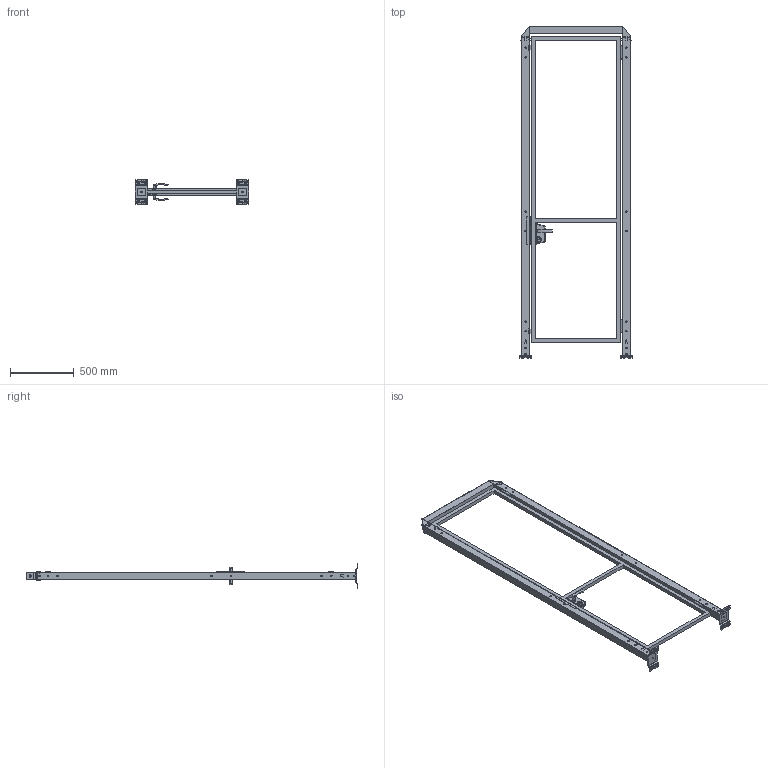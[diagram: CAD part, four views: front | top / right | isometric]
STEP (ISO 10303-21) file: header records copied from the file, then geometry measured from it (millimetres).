
FILE_DESCRIPTION(('STEP AP242'),'1');
FILE_NAME('vfda_bscgd03_07002520.stp','2025-01-31T11:30:36',('TraceParts'),('TraceParts S.A.'),'Spatial InterOp 3D',' ',' ');
FILE_SCHEMA(('AP242_MANAGED_MODEL_BASED_3D_ENGINEERING_MIM_LF {1 0 10303 442 1 1 4}'));
Length unit declared in the file: millimetre
Products named in the file (1): vfda_bscgd03_07002520_1
Bounding box: 890 x 2601 x 192 mm (x, y, z)
Volume: 8905388.3 mm3; surface area: 3804625 mm2
Topology: 13 solids, 13 shells, 1629 faces, 4331 edges, 2766 vertices
Faces by surface type: plane 807, cylinder 554, bspline 194, cone 46, torus 28
Entity records: 67608 total; most frequent: CARTESIAN_POINT 14334, ORIENTED_EDGE 8662, DIRECTION 7987, EDGE_CURVE 4331, VERTEX_POINT 2766, AXIS2_PLACEMENT_3D 2674, LINE 2639, VECTOR 2639
